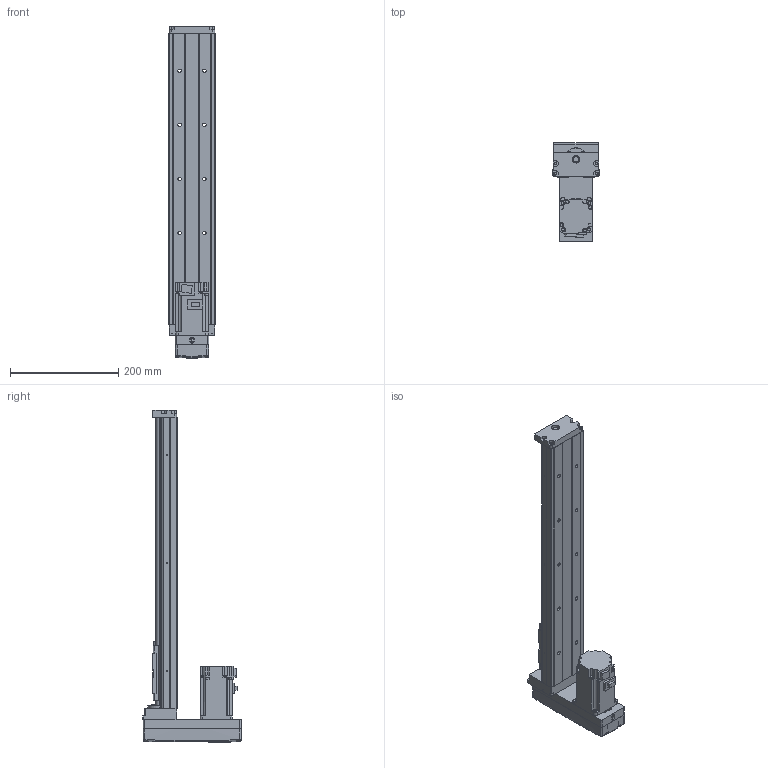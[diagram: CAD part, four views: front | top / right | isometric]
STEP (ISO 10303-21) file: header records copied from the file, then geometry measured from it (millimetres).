
FILE_DESCRIPTION (( 'STEP AP203' ), '1' );
FILE_NAME ('KH86D10C-540A1-H0M-Z.STEP', '2023-09-14T08:44:21', ( 'Windows User' ), ( 'P R C' ), 'SwSTEP 2.0', 'SolidWorks 2016', '' );
FILE_SCHEMA (( 'CONFIG_CONTROL_DESIGN' ));
Length unit declared in the file: millimetre
Products named in the file (7): KH86D10C-540A1-H0M-Z; KH86-01-540; KH86-02-BM00; KH86-綴釱-05S_KK86-05-01; 86賑輸; KK86-06-02（M12X1.0）; KH86-A1
Assembly tree (6 placements, depth 3):
  KH86D10C-540A1-H0M-Z
    KH86-01-540
    KH86-A1
      86賑輸
    KH86-綴釱-05S_KK86-05-01
    KK86-06-02（M12X1.0）
    KH86-02-BM00
Bounding box: 86 x 183.15 x 614.5 mm (x, y, z)
Volume: 1646846.9 mm3; surface area: 352044 mm2
Topology: 22 solids, 22 shells, 1202 faces, 3111 edges, 2006 vertices
Faces by surface type: plane 516, cylinder 427, cone 113, bspline 94, torus 48, sphere 4
Entity records: 43522 total; most frequent: CARTESIAN_POINT 13573, ORIENTED_EDGE 6130, DIRECTION 5984, EDGE_CURVE 3065, AXIS2_PLACEMENT_3D 2156, VERTEX_POINT 2006, LINE 1672, VECTOR 1672
